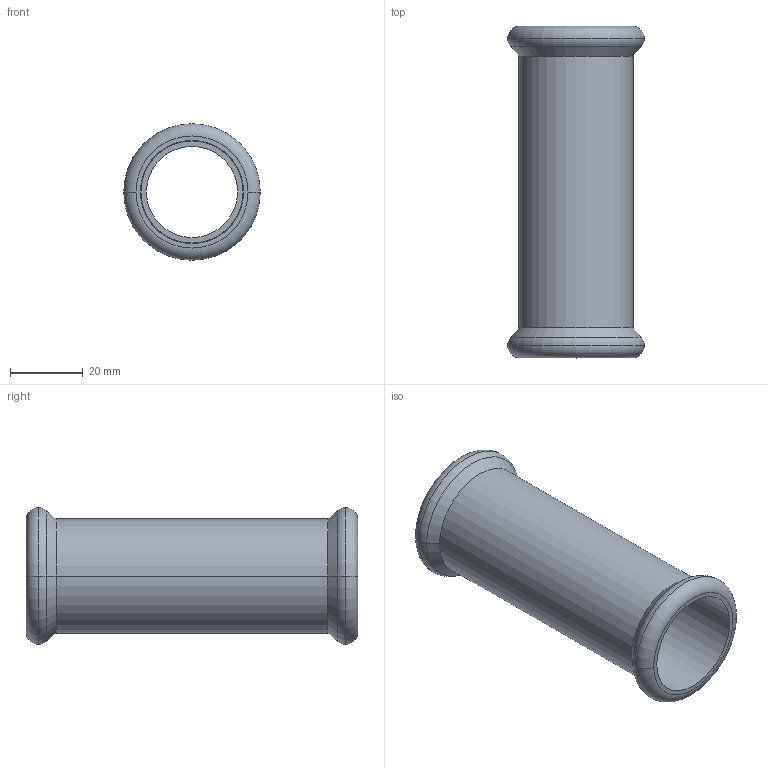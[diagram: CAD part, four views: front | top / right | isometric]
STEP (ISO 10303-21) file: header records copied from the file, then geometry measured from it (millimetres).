
FILE_DESCRIPTION(('CoCreate Modeling STEP Export'),'2;1');
FILE_NAME('C1403 28x28.stp','2014-11-07T14:05:25',(''),(''),'CoCreate Modeling STEP processor for AP214 (Solid Model)','CoCreate Modeling 17.00A 17-Jun-2010 (C) Parametric Technology GmbH','');
FILE_SCHEMA(('AUTOMOTIVE_DESIGN { 1 0 10303 214 1 1 1 1 }'));
Length unit declared in the file: millimetre
Products named in the file (2): C1403_28x28
Assembly tree (1 placements, depth 2):
  C1403_28x28
    C1403_28x28
Bounding box: 37.45 x 91 x 37.45 mm (x, y, z)
Volume: 22615.2 mm3; surface area: 18085.8 mm2
Topology: 1 solids, 1 shells, 30 faces, 62 edges, 38 vertices
Faces by surface type: cylinder 12, torus 8, plane 6, cone 4
Entity records: 691 total; most frequent: ORIENTED_EDGE 124, DIRECTION 104, CARTESIAN_POINT 98, EDGE_CURVE 62, AXIS2_PLACEMENT_3D 44, VERTEX_POINT 38, EDGE_LOOP 36, FACE_OUTER_BOUND 30
